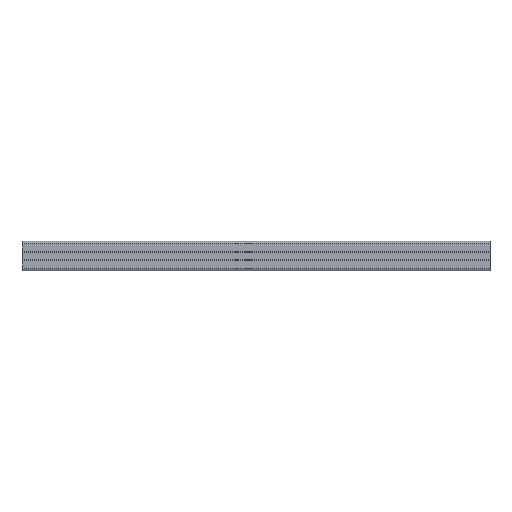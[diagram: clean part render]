
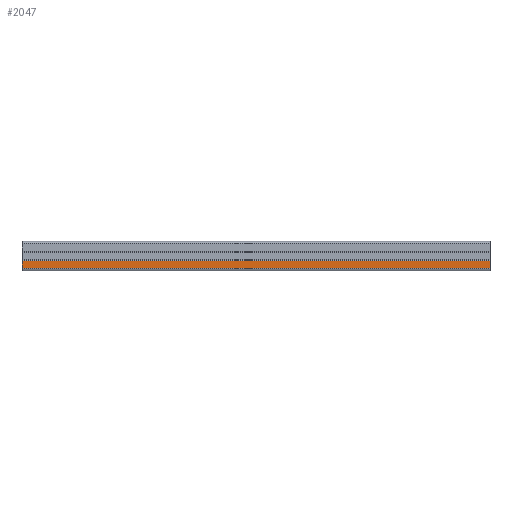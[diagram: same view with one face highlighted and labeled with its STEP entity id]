
A CAD part, front view. The second image highlights one B-rep face of the part: STEP entity #2047.
In plain terms, the highlighted free-form (B-spline) face has degree [1, 1] with [2, 2] control points.
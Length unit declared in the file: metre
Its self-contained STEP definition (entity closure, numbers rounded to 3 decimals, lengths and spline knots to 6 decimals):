
#25=B_SPLINE_SURFACE_WITH_KNOTS('',1,1,((#2998,#2999),(#3000,#3001)),
 .PLANE_SURF.,.F.,.F.,.F.,(2,2),(2,2),(0.,1.),(0.,1.),.UNSPECIFIED.);
#115=LINE('',#2995,#315);
#116=LINE('',#3002,#316);
#117=LINE('',#3004,#317);
#118=LINE('',#3006,#318);
#315=VECTOR('',#2366,1.);
#316=VECTOR('',#2369,1.);
#317=VECTOR('',#2370,1.);
#318=VECTOR('',#2371,1.);
#570=ORIENTED_EDGE('',*,*,#1178,.T.);
#571=ORIENTED_EDGE('',*,*,#1180,.F.);
#572=ORIENTED_EDGE('',*,*,#1181,.F.);
#573=ORIENTED_EDGE('',*,*,#1182,.T.);
#1178=EDGE_CURVE('',#1471,#1470,#115,.T.);
#1180=EDGE_CURVE('',#1472,#1470,#116,.T.);
#1181=EDGE_CURVE('',#1473,#1472,#117,.T.);
#1182=EDGE_CURVE('',#1473,#1471,#118,.T.);
#1470=VERTEX_POINT('',#2994);
#1471=VERTEX_POINT('',#2996);
#1472=VERTEX_POINT('',#3003);
#1473=VERTEX_POINT('',#3005);
#1775=EDGE_LOOP('',(#570,#571,#572,#573));
#1883=FACE_BOUND('',#1775,.T.);
#2047=ADVANCED_FACE('',(#1883),#25,.T.);
#2366=DIRECTION('',(1.,0.,0.));
#2369=DIRECTION('',(0.,0.,-1.));
#2370=DIRECTION('',(1.,0.,0.));
#2371=DIRECTION('',(0.,0.,-1.));
#2994=CARTESIAN_POINT('',(0.079421,-0.01,0.066386));
#2995=CARTESIAN_POINT('',(-0.240579,-0.01,0.066386));
#2996=CARTESIAN_POINT('',(-0.240579,-0.01,0.066386));
#2998=CARTESIAN_POINT('',(-0.256579,-0.01,0.072016));
#2999=CARTESIAN_POINT('',(0.095421,-0.01,0.072016));
#3000=CARTESIAN_POINT('',(-0.256579,-0.01,0.066118));
#3001=CARTESIAN_POINT('',(0.095421,-0.01,0.066118));
#3002=CARTESIAN_POINT('',(0.079421,-0.01,0.069067));
#3003=CARTESIAN_POINT('',(0.079421,-0.01,0.071748));
#3004=CARTESIAN_POINT('',(-0.240579,-0.01,0.071748));
#3005=CARTESIAN_POINT('',(-0.240579,-0.01,0.071748));
#3006=CARTESIAN_POINT('',(-0.240579,-0.01,0.069067));
